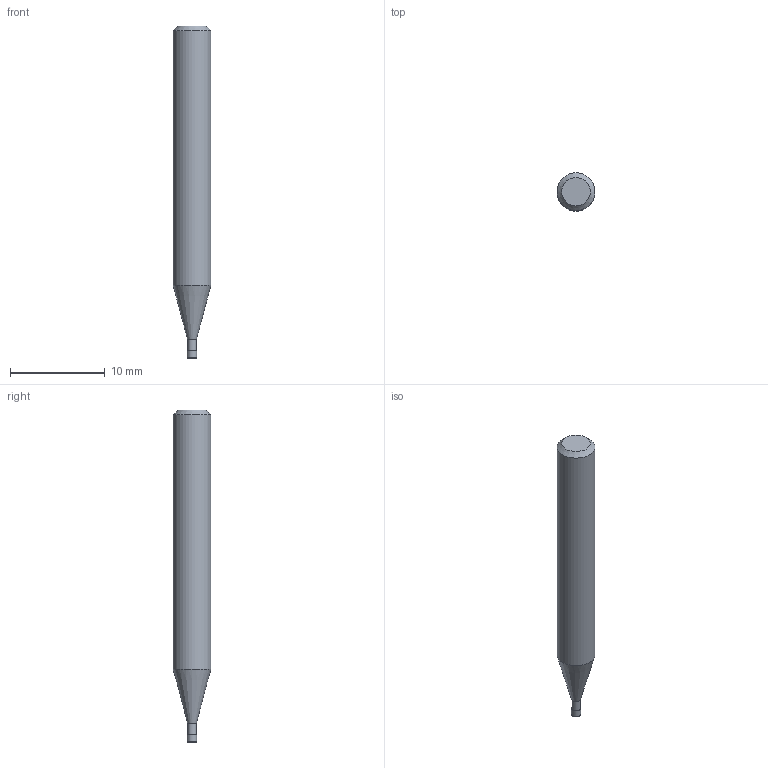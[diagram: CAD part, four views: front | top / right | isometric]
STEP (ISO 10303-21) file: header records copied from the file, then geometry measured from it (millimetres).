
FILE_DESCRIPTION((''),'2;1');
FILE_NAME('C:\Users\nsx150\AppData\Local\Temp\Mastercam 2021\80JYEHYUML\TEMP.step','2022-03-29T14:36:02',(''),(''),'STEP Write','Mastercam 2021 ... CNC Software, Inc.','');
FILE_SCHEMA(('AUTOMOTIVE_DESIGN'));
Length unit declared in the file: millimetre
Products named in the file (1): None
Bounding box: 4 x 4 x 35 mm (x, y, z)
Volume: 374.1 mm3; surface area: 405.9 mm2
Topology: 2 solids, 2 shells, 10 faces, 14 edges, 8 vertices
Faces by surface type: plane 4, cylinder 3, cone 2, torus 1
Full cylindrical faces by diameter (mm): 0.95 x1, 1 x1, 4 x1
Entity records: 232 total; most frequent: DIRECTION 40, CARTESIAN_POINT 28, AXIS2_PLACEMENT_3D 20, ORIENTED_EDGE 16, EDGE_LOOP 16, STYLED_ITEM 13, ADVANCED_FACE 10, FACE_BOUND 10
